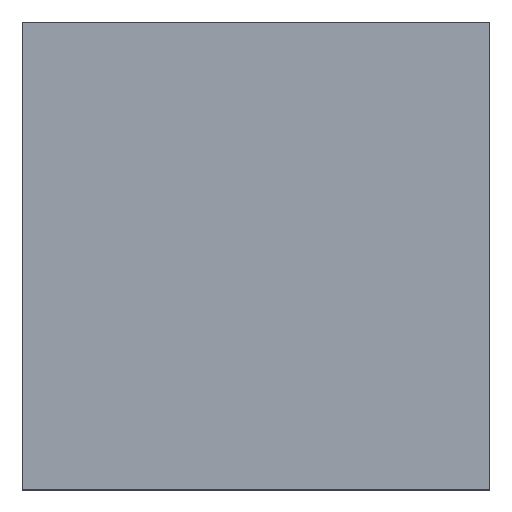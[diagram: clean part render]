
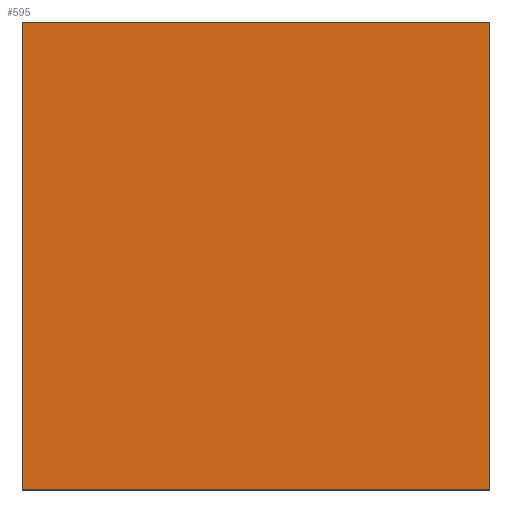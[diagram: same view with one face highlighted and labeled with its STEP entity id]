
A CAD part, top view. The second image highlights one B-rep face of the part: STEP entity #595.
In plain terms, the highlighted planar face has unit normal (0, 0, 1).
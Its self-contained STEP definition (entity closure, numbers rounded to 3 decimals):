
#7 = VERTEX_POINT ( 'NONE', #957 ) ;
#58 = EDGE_CURVE ( 'NONE', #1022, #1519, #1429, .T. ) ;
#60 = FACE_OUTER_BOUND ( 'NONE', #549, .T. ) ;
#149 = LINE ( 'NONE', #967, #847 ) ;
#155 = DIRECTION ( 'NONE',  ( 1., 0., 0. ) ) ;
#228 = ORIENTED_EDGE ( 'NONE', *, *, #58, .T. ) ;
#241 = CARTESIAN_POINT ( 'NONE',  ( 25., -25., 10. ) ) ;
#251 = DIRECTION ( 'NONE',  ( -1., 0., 0. ) ) ;
#277 = DIRECTION ( 'NONE',  ( 0., 0., 1. ) ) ;
#326 = EDGE_CURVE ( 'NONE', #1160, #7, #801, .T. ) ;
#549 = EDGE_LOOP ( 'NONE', ( #1596, #872, #228, #800 ) ) ;
#594 = LINE ( 'NONE', #861, #604 ) ;
#595 = ADVANCED_FACE ( 'NONE', ( #60 ), #652, .T. ) ;
#604 = VECTOR ( 'NONE', #251, 1000. ) ;
#652 = PLANE ( 'NONE',  #862 ) ;
#680 = CARTESIAN_POINT ( 'NONE',  ( 25., 25., 10. ) ) ;
#719 = EDGE_CURVE ( 'NONE', #1519, #1160, #594, .T. ) ;
#800 = ORIENTED_EDGE ( 'NONE', *, *, #719, .T. ) ;
#801 = LINE ( 'NONE', #1295, #1055 ) ;
#847 = VECTOR ( 'NONE', #1119, 1000. ) ;
#861 = CARTESIAN_POINT ( 'NONE',  ( -25., 25., 10. ) ) ;
#862 = AXIS2_PLACEMENT_3D ( 'NONE', #1274, #277, #155 ) ;
#872 = ORIENTED_EDGE ( 'NONE', *, *, #1075, .T. ) ;
#887 = CARTESIAN_POINT ( 'NONE',  ( -25., 25., 10. ) ) ;
#957 = CARTESIAN_POINT ( 'NONE',  ( -25., -25., 10. ) ) ;
#967 = CARTESIAN_POINT ( 'NONE',  ( -25., -25., 10. ) ) ;
#1022 = VERTEX_POINT ( 'NONE', #241 ) ;
#1040 = DIRECTION ( 'NONE',  ( 0., -1., 0. ) ) ;
#1055 = VECTOR ( 'NONE', #1040, 1000. ) ;
#1075 = EDGE_CURVE ( 'NONE', #7, #1022, #149, .T. ) ;
#1082 = CARTESIAN_POINT ( 'NONE',  ( 25., 25., 10. ) ) ;
#1119 = DIRECTION ( 'NONE',  ( 1., 0., 0. ) ) ;
#1160 = VERTEX_POINT ( 'NONE', #887 ) ;
#1184 = DIRECTION ( 'NONE',  ( 0., 1., 0. ) ) ;
#1274 = CARTESIAN_POINT ( 'NONE',  ( 0., 0., 10. ) ) ;
#1295 = CARTESIAN_POINT ( 'NONE',  ( -25., 25., 10. ) ) ;
#1341 = VECTOR ( 'NONE', #1184, 1000. ) ;
#1429 = LINE ( 'NONE', #680, #1341 ) ;
#1519 = VERTEX_POINT ( 'NONE', #1082 ) ;
#1596 = ORIENTED_EDGE ( 'NONE', *, *, #326, .T. ) ;
